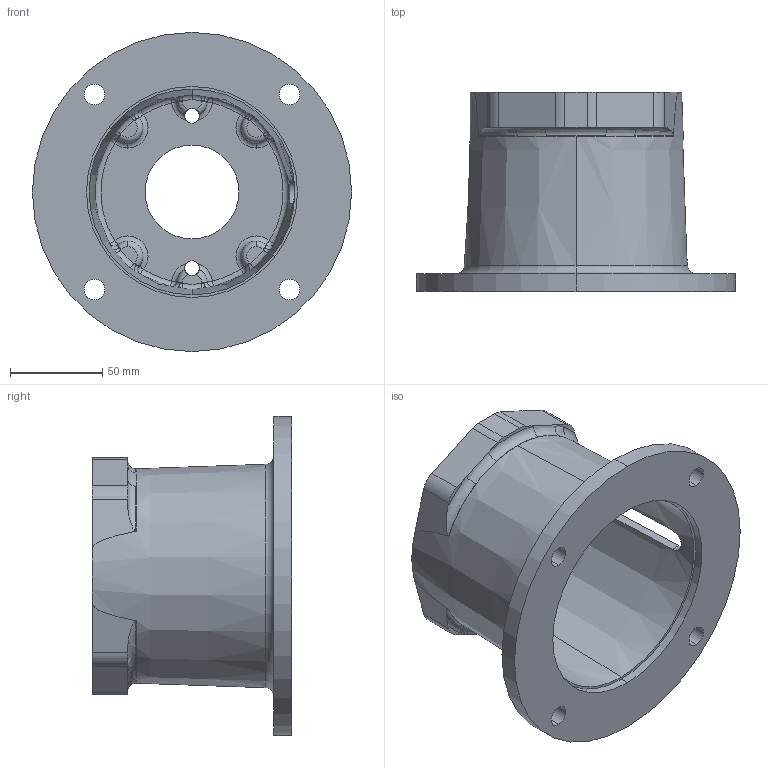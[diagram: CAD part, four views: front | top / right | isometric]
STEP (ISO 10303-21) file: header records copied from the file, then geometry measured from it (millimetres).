
FILE_DESCRIPTION (( 'STEP AP203' ), '1' );
FILE_NAME ('M056422AA.STEP', '2008-05-16T19:21:44', ( 'Chris McCoy' ), ( 'Magnaloy Coupling Co' ), 'SwSTEP 2.0', 'SolidWorks 2008', '' );
FILE_SCHEMA (( 'CONFIG_CONTROL_DESIGN' ));
Length unit declared in the file: inch
Products named in the file (1): M056422AA
Bounding box: 172.97 x 107.95 x 172.97 mm (x, y, z)
Volume: 381531.3 mm3; surface area: 119997.7 mm2
Topology: 1 solids, 1 shells, 204 faces, 520 edges, 307 vertices
Faces by surface type: torus 59, cylinder 40, bspline 40, plane 29, sphere 24, cone 12
Entity records: 7921 total; most frequent: CARTESIAN_POINT 3088, DIRECTION 1040, ORIENTED_EDGE 1016, EDGE_CURVE 508, AXIS2_PLACEMENT_3D 479, CIRCLE 314, VERTEX_POINT 307, EDGE_LOOP 221
